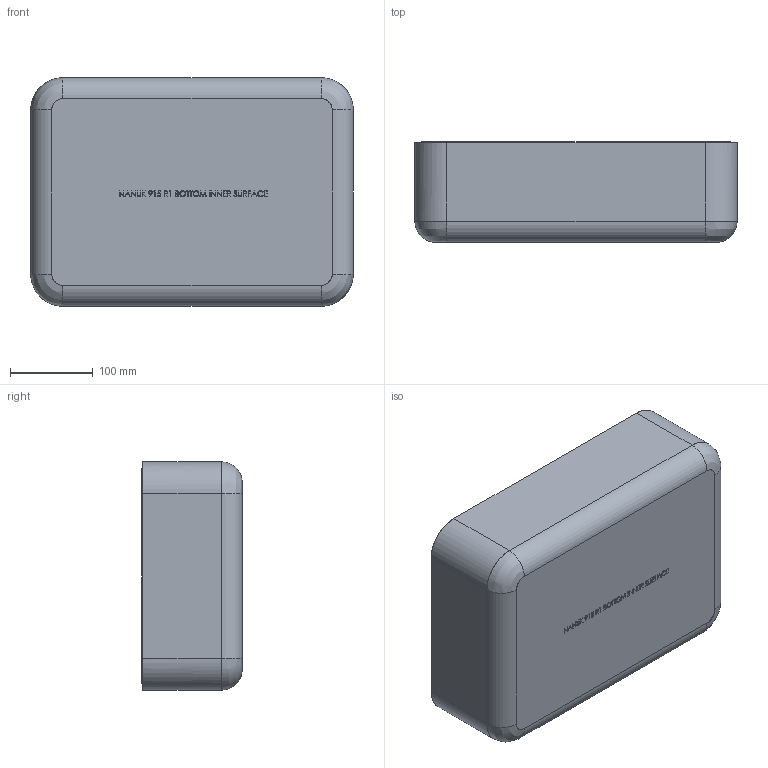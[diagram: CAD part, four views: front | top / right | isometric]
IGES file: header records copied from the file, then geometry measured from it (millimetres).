
Start section: SolidWorks IGES file using analytic representation for surfaces
Global section: file name: C:\Users\ericp\OneDrive\Documents\Plasticase Co-op\New Nanuk Cases\915\NEW DESIGN R1\4 - 3D FILES\1 - FINAL 3D\915 Inner Surfaces\915_R1_Btm_INNER_SURFACE_IGES.IGS; native system: SolidWorks 2018; preprocessor: SolidWorks 2018; author: ericp; date: 200317.155305; units: inch
Bounding box: 390.24 x 121.79 x 276.52 mm (x, y, z)
Surface area: 464687.1 mm2 (no closed solid volume)
Topology: 0 solids, 0 shells, 967 faces, 10734 edges, 10733 vertices
Faces by surface type: bspline 817, revolution 150
